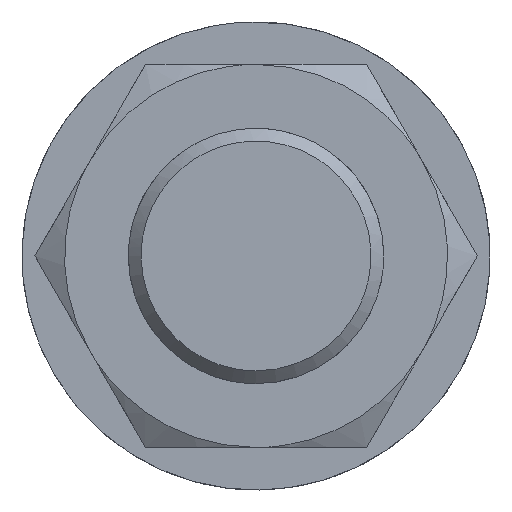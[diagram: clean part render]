
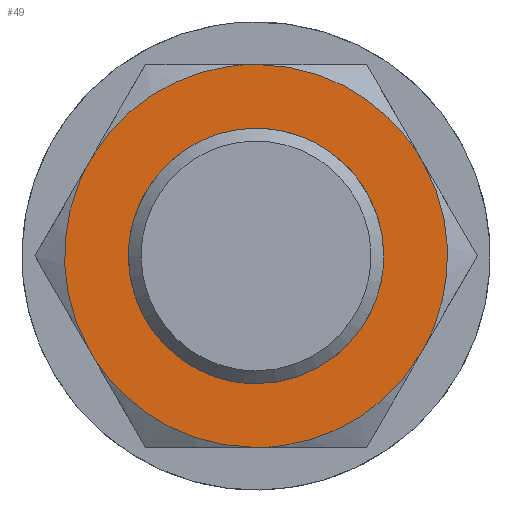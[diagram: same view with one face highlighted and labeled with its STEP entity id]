
A CAD part, left-side view. The second image highlights one B-rep face of the part: STEP entity #49.
In plain terms, the highlighted planar face has unit normal (-1, 0, 0).
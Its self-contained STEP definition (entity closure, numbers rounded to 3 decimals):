
#40=FACE_BOUND('',#138,.T.);
#49=ADVANCED_FACE('',(#92,#40),#658,.T.);
#92=FACE_OUTER_BOUND('',#137,.T.);
#137=EDGE_LOOP('',(#202,#203,#204,#205,#206,#207));
#138=EDGE_LOOP('',(#208,#209));
#202=ORIENTED_EDGE('',*,*,#403,.F.);
#203=ORIENTED_EDGE('',*,*,#405,.F.);
#204=ORIENTED_EDGE('',*,*,#406,.F.);
#205=ORIENTED_EDGE('',*,*,#404,.F.);
#206=ORIENTED_EDGE('',*,*,#402,.F.);
#207=ORIENTED_EDGE('',*,*,#401,.F.);
#208=ORIENTED_EDGE('',*,*,#391,.F.);
#209=ORIENTED_EDGE('',*,*,#389,.F.);
#389=EDGE_CURVE('',#604,#594,#515,.T.);
#391=EDGE_CURVE('',#594,#604,#516,.T.);
#401=EDGE_CURVE('',#598,#599,#524,.T.);
#402=EDGE_CURVE('',#599,#603,#525,.T.);
#403=EDGE_CURVE('',#600,#598,#526,.T.);
#404=EDGE_CURVE('',#603,#602,#527,.T.);
#405=EDGE_CURVE('',#601,#600,#528,.T.);
#406=EDGE_CURVE('',#602,#601,#529,.T.);
#515=(
BOUNDED_CURVE()
B_SPLINE_CURVE(2,(#1161,#1162,#1163,#1164,#1165),.UNSPECIFIED.,.F.,.F.)
B_SPLINE_CURVE_WITH_KNOTS((3,2,3),(94.248,141.372,188.496),
 .UNSPECIFIED.)
CURVE()
GEOMETRIC_REPRESENTATION_ITEM()
RATIONAL_B_SPLINE_CURVE((1.,0.707,1.,0.707,1.))
REPRESENTATION_ITEM('')
);
#516=(
BOUNDED_CURVE()
B_SPLINE_CURVE(2,(#1168,#1169,#1170,#1171,#1172),.UNSPECIFIED.,.F.,.F.)
B_SPLINE_CURVE_WITH_KNOTS((3,2,3),(0.,47.124,94.248),
 .UNSPECIFIED.)
CURVE()
GEOMETRIC_REPRESENTATION_ITEM()
RATIONAL_B_SPLINE_CURVE((1.,0.707,1.,0.707,1.))
REPRESENTATION_ITEM('')
);
#524=(
BOUNDED_CURVE()
B_SPLINE_CURVE(2,(#1210,#1211,#1212),.UNSPECIFIED.,.F.,.F.)
B_SPLINE_CURVE_WITH_KNOTS((3,3),(0.,47.124),.UNSPECIFIED.)
CURVE()
GEOMETRIC_REPRESENTATION_ITEM()
RATIONAL_B_SPLINE_CURVE((1.,0.866,1.))
REPRESENTATION_ITEM('')
);
#525=(
BOUNDED_CURVE()
B_SPLINE_CURVE(2,(#1213,#1214,#1215),.UNSPECIFIED.,.F.,.F.)
B_SPLINE_CURVE_WITH_KNOTS((3,3),(0.,47.124),.UNSPECIFIED.)
CURVE()
GEOMETRIC_REPRESENTATION_ITEM()
RATIONAL_B_SPLINE_CURVE((1.,0.866,1.))
REPRESENTATION_ITEM('')
);
#526=(
BOUNDED_CURVE()
B_SPLINE_CURVE(2,(#1216,#1217,#1218),.UNSPECIFIED.,.F.,.F.)
B_SPLINE_CURVE_WITH_KNOTS((3,3),(0.,47.124),.UNSPECIFIED.)
CURVE()
GEOMETRIC_REPRESENTATION_ITEM()
RATIONAL_B_SPLINE_CURVE((1.,0.866,1.))
REPRESENTATION_ITEM('')
);
#527=(
BOUNDED_CURVE()
B_SPLINE_CURVE(2,(#1219,#1220,#1221),.UNSPECIFIED.,.F.,.F.)
B_SPLINE_CURVE_WITH_KNOTS((3,3),(0.,47.124),.UNSPECIFIED.)
CURVE()
GEOMETRIC_REPRESENTATION_ITEM()
RATIONAL_B_SPLINE_CURVE((1.,0.866,1.))
REPRESENTATION_ITEM('')
);
#528=(
BOUNDED_CURVE()
B_SPLINE_CURVE(2,(#1222,#1223,#1224),.UNSPECIFIED.,.F.,.F.)
B_SPLINE_CURVE_WITH_KNOTS((3,3),(0.,47.124),.UNSPECIFIED.)
CURVE()
GEOMETRIC_REPRESENTATION_ITEM()
RATIONAL_B_SPLINE_CURVE((1.,0.866,1.))
REPRESENTATION_ITEM('')
);
#529=(
BOUNDED_CURVE()
B_SPLINE_CURVE(2,(#1225,#1226,#1227),.UNSPECIFIED.,.F.,.F.)
B_SPLINE_CURVE_WITH_KNOTS((3,3),(0.,47.124),.UNSPECIFIED.)
CURVE()
GEOMETRIC_REPRESENTATION_ITEM()
RATIONAL_B_SPLINE_CURVE((1.,0.866,1.))
REPRESENTATION_ITEM('')
);
#594=VERTEX_POINT('',#1129);
#598=VERTEX_POINT('',#1133);
#599=VERTEX_POINT('',#1134);
#600=VERTEX_POINT('',#1135);
#601=VERTEX_POINT('',#1136);
#602=VERTEX_POINT('',#1137);
#603=VERTEX_POINT('',#1138);
#604=VERTEX_POINT('',#1139);
#658=PLANE('',#772);
#772=AXIS2_PLACEMENT_3D('',#886,#798,$);
#798=DIRECTION('',(-1.,0.,0.));
#886=CARTESIAN_POINT('',(79.667,-62.474,54.12));
#1129=CARTESIAN_POINT('',(79.667,0.,-30.));
#1133=CARTESIAN_POINT('',(79.667,-38.971,22.5));
#1134=CARTESIAN_POINT('',(79.667,-38.971,-22.5));
#1135=CARTESIAN_POINT('',(79.667,0.,45.));
#1136=CARTESIAN_POINT('',(79.667,38.971,22.5));
#1137=CARTESIAN_POINT('',(79.667,38.971,-22.5));
#1138=CARTESIAN_POINT('',(79.667,0.,-45.));
#1139=CARTESIAN_POINT('',(79.667,0.,30.));
#1161=CARTESIAN_POINT('',(79.667,0.,30.));
#1162=CARTESIAN_POINT('',(79.667,30.,30.));
#1163=CARTESIAN_POINT('',(79.667,30.,0.));
#1164=CARTESIAN_POINT('',(79.667,30.,-30.));
#1165=CARTESIAN_POINT('',(79.667,0.,-30.));
#1168=CARTESIAN_POINT('',(79.667,0.,-30.));
#1169=CARTESIAN_POINT('',(79.667,-30.,-30.));
#1170=CARTESIAN_POINT('',(79.667,-30.,0.));
#1171=CARTESIAN_POINT('',(79.667,-30.,30.));
#1172=CARTESIAN_POINT('',(79.667,0.,30.));
#1210=CARTESIAN_POINT('',(79.667,-38.971,22.5));
#1211=CARTESIAN_POINT('',(79.667,-51.962,0.));
#1212=CARTESIAN_POINT('',(79.667,-38.971,-22.5));
#1213=CARTESIAN_POINT('',(79.667,-38.971,-22.5));
#1214=CARTESIAN_POINT('',(79.667,-25.981,-45.));
#1215=CARTESIAN_POINT('',(79.667,0.,-45.));
#1216=CARTESIAN_POINT('',(79.667,0.,45.));
#1217=CARTESIAN_POINT('',(79.667,-25.981,45.));
#1218=CARTESIAN_POINT('',(79.667,-38.971,22.5));
#1219=CARTESIAN_POINT('',(79.667,0.,-45.));
#1220=CARTESIAN_POINT('',(79.667,25.981,-45.));
#1221=CARTESIAN_POINT('',(79.667,38.971,-22.5));
#1222=CARTESIAN_POINT('',(79.667,38.971,22.5));
#1223=CARTESIAN_POINT('',(79.667,25.981,45.));
#1224=CARTESIAN_POINT('',(79.667,0.,45.));
#1225=CARTESIAN_POINT('',(79.667,38.971,-22.5));
#1226=CARTESIAN_POINT('',(79.667,51.962,0.));
#1227=CARTESIAN_POINT('',(79.667,38.971,22.5));
